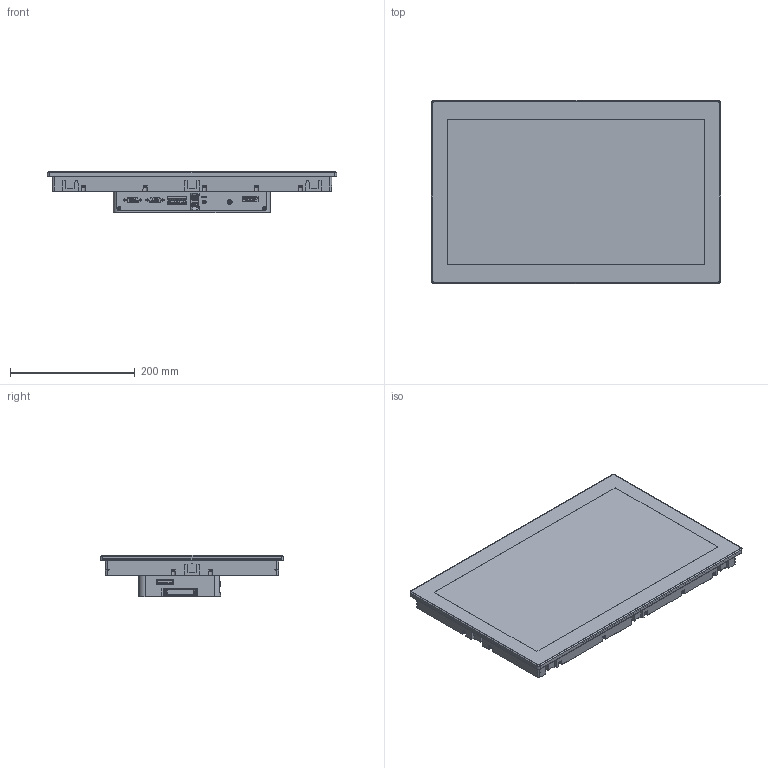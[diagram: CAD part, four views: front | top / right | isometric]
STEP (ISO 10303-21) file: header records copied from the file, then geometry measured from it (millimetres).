
FILE_DESCRIPTION(('STEP AP214'),'1');
FILE_NAME('HMI_19W_WXGA_DC_3D-simpl_TK_UPDATE.stp','2025-10-23T01:57:59',(' '),(' '),'Spatial InterOp 3D',' ',' ');
FILE_SCHEMA(('AUTOMOTIVE_DESIGN { 1 0 10303 214 1 1 1 1 }'));
Length unit declared in the file: metre
Products named in the file (5): HMI_19W_WXGA_DC_3D-simpl_TK_UPDATE; Component14; Component24; Component34
Assembly tree (4 placements, depth 3):
  HMI_19W_WXGA_DC_3D-simpl_TK_UPDATE
    HMI_19W_WXGA_DC_3D-simpl_TK_UPDATE
      Component14
      Component24
      Component34
Bounding box: 463.6 x 293.6 x 66.28 mm (x, y, z)
Volume: 4915468.6 mm3; surface area: 651851.9 mm2
Topology: 3 solids, 4 shells, 3183 faces, 8813 edges, 5730 vertices
Faces by surface type: plane 1859, cylinder 826, cone 276, bspline 117, torus 64, sphere 41
Full cylindrical faces by diameter (mm): 0.99 x18, 2.5 x4, 2.8 x2, 2.845 x4, 3 x18, 4 x8, 5.6 x25, 6 x6, 8 x1, 8.454 x6, 64.241 x1
Entity records: 109306 total; most frequent: CARTESIAN_POINT 30299, ORIENTED_EDGE 17064, DIRECTION 15180, EDGE_CURVE 8532, VERTEX_POINT 5678, LINE 5616, VECTOR 5616, AXIS2_PLACEMENT_3D 4782
